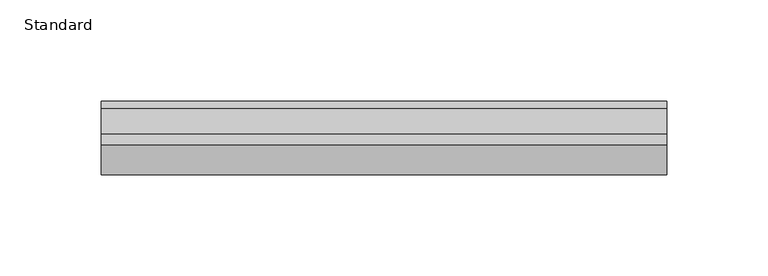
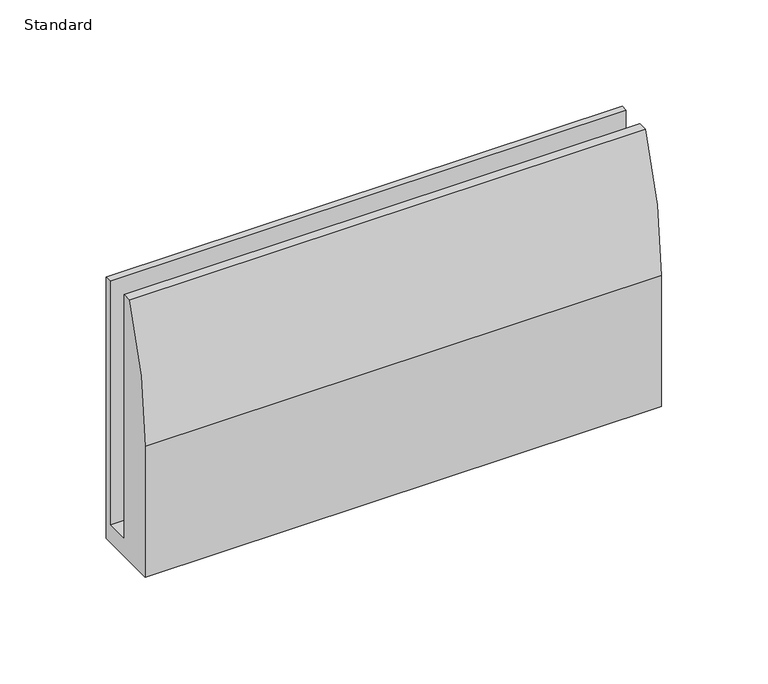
"""IFC4 building model written with IfcOpenShell, lengths in millimetres: furniture geometry, X_Partition-Channel-Duracube-Skirting : Standard."""

from ifc_helpers import new_model, si_unit, point, frame, frame_2d, origin, place, context, project, spatial, polyline, circle_curve, trimmed, segment, composite_curve, outline, extrude, source, transform, mapped, element, save


def standard_3121d7ea(model_context):
    return source(origin(), model_context, "Body", "SweptSolid", [
        extrude(outline(composite_curve([segment(polyline([(-3.5, 150.0), (0.0, 150.0), (0.0, 0.0), (-36.5, 0.0), (-36.5, 75.0)]), True, "CONTINUOUS"), segment(trimmed(circle_curve(frame_2d((158.5, 75.0)), 195.0), [point((-36.5, 75.0))], [point((-21.5, 150.0))], False, "CARTESIAN"), True, "CONTINUOUS"), segment(polyline([(-21.5, 150.0), (-16.5, 150.0), (-16.5, 10.000005), (-3.5, 10.000005), (-3.5, 150.0)]), True, "CONTINUOUS")], self_intersect=False)), frame((-95.2996736, 0.0, 0.0), z_axis=(1.0, 0.0, 0.0), x_axis=(0.0, 1.0, 0.0)), (0.0, 0.0, 1.0), 280.0),
    ])


if __name__ == "__main__":
    model = new_model("IFC4")
    model_context = context("Model", 3, world=origin())
    ifc_project = project(units=[si_unit("LENGTHUNIT", "METRE", prefix="MILLI")], contexts=[model_context])
    site = spatial("IfcSite", under=ifc_project)
    building = spatial("IfcBuilding", under=site)
    placement = place(None, origin())
    standard_shape = standard_3121d7ea(model_context)
    element("IfcFurniture", 1, ObjectType="X_Partition-Channel-Duracube-Skirting : Standard", at=placement, inside=building, context=model_context, shape_type="MappedRepresentation", body=[
        mapped(standard_shape, transform((0.0, 0.0, 0.0), x_axis=(1.0, 0.0, 0.0), y_axis=(0.0, 1.0, 0.0), z_axis=(0.0, 0.0, 1.0))),
    ])
    save(model, "model.ifc")
